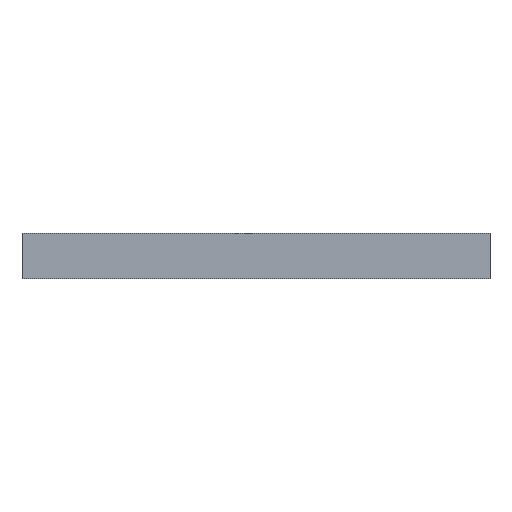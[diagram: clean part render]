
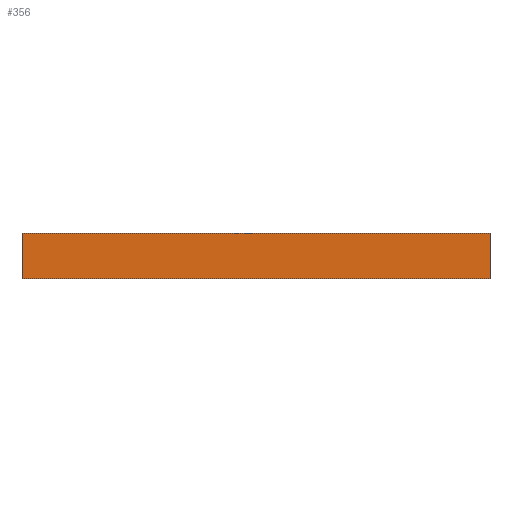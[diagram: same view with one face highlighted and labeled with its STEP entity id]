
A CAD part, top view. The second image highlights one B-rep face of the part: STEP entity #356.
In plain terms, the highlighted planar face has unit normal (0, 0, 1).
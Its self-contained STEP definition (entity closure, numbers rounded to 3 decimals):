
#42 = VERTEX_POINT('',#43);
#43 = CARTESIAN_POINT('',(0.,0.,0.6));
#50 = PLANE('',#51);
#51 = AXIS2_PLACEMENT_3D('',#52,#53,#54);
#52 = CARTESIAN_POINT('',(0.,0.,0.));
#53 = DIRECTION('',(1.,0.,-0.));
#54 = DIRECTION('',(0.,0.,1.));
#62 = PLANE('',#63);
#63 = AXIS2_PLACEMENT_3D('',#64,#65,#66);
#64 = CARTESIAN_POINT('',(0.,0.,0.));
#65 = DIRECTION('',(-0.,1.,0.));
#66 = DIRECTION('',(0.,0.,1.));
#103 = VERTEX_POINT('',#104);
#104 = CARTESIAN_POINT('',(0.,12.3,0.6));
#118 = PLANE('',#119);
#119 = AXIS2_PLACEMENT_3D('',#120,#121,#122);
#120 = CARTESIAN_POINT('',(0.,12.3,0.));
#121 = DIRECTION('',(-0.,1.,0.));
#122 = DIRECTION('',(0.,0.,1.));
#130 = EDGE_CURVE('',#42,#103,#131,.T.);
#131 = SURFACE_CURVE('',#132,(#136,#143),.PCURVE_S1.);
#132 = LINE('',#133,#134);
#133 = CARTESIAN_POINT('',(0.,0.,0.6));
#134 = VECTOR('',#135,1.);
#135 = DIRECTION('',(-0.,1.,0.));
#136 = PCURVE('',#50,#137);
#137 = DEFINITIONAL_REPRESENTATION('',(#138),#142);
#138 = LINE('',#139,#140);
#139 = CARTESIAN_POINT('',(0.6,0.));
#140 = VECTOR('',#141,1.);
#141 = DIRECTION('',(0.,-1.));
#142 = ( GEOMETRIC_REPRESENTATION_CONTEXT(2) 
PARAMETRIC_REPRESENTATION_CONTEXT() REPRESENTATION_CONTEXT('2D SPACE',''
  ) );
#143 = PCURVE('',#144,#149);
#144 = PLANE('',#145);
#145 = AXIS2_PLACEMENT_3D('',#146,#147,#148);
#146 = CARTESIAN_POINT('',(0.,0.,0.6));
#147 = DIRECTION('',(0.,0.,1.));
#148 = DIRECTION('',(1.,0.,-0.));
#149 = DEFINITIONAL_REPRESENTATION('',(#150),#154);
#150 = LINE('',#151,#152);
#151 = CARTESIAN_POINT('',(0.,0.));
#152 = VECTOR('',#153,1.);
#153 = DIRECTION('',(0.,1.));
#154 = ( GEOMETRIC_REPRESENTATION_CONTEXT(2) 
PARAMETRIC_REPRESENTATION_CONTEXT() REPRESENTATION_CONTEXT('2D SPACE',''
  ) );
#162 = VERTEX_POINT('',#163);
#163 = CARTESIAN_POINT('',(125.85,0.,0.6));
#170 = PLANE('',#171);
#171 = AXIS2_PLACEMENT_3D('',#172,#173,#174);
#172 = CARTESIAN_POINT('',(125.85,0.,0.));
#173 = DIRECTION('',(1.,0.,-0.));
#174 = DIRECTION('',(0.,0.,1.));
#213 = VERTEX_POINT('',#214);
#214 = CARTESIAN_POINT('',(125.85,12.3,0.6));
#235 = EDGE_CURVE('',#162,#213,#236,.T.);
#236 = SURFACE_CURVE('',#237,(#241,#248),.PCURVE_S1.);
#237 = LINE('',#238,#239);
#238 = CARTESIAN_POINT('',(125.85,0.,0.6));
#239 = VECTOR('',#240,1.);
#240 = DIRECTION('',(-0.,1.,0.));
#241 = PCURVE('',#170,#242);
#242 = DEFINITIONAL_REPRESENTATION('',(#243),#247);
#243 = LINE('',#244,#245);
#244 = CARTESIAN_POINT('',(0.6,0.));
#245 = VECTOR('',#246,1.);
#246 = DIRECTION('',(0.,-1.));
#247 = ( GEOMETRIC_REPRESENTATION_CONTEXT(2) 
PARAMETRIC_REPRESENTATION_CONTEXT() REPRESENTATION_CONTEXT('2D SPACE',''
  ) );
#248 = PCURVE('',#144,#249);
#249 = DEFINITIONAL_REPRESENTATION('',(#250),#254);
#250 = LINE('',#251,#252);
#251 = CARTESIAN_POINT('',(125.85,0.));
#252 = VECTOR('',#253,1.);
#253 = DIRECTION('',(0.,1.));
#254 = ( GEOMETRIC_REPRESENTATION_CONTEXT(2) 
PARAMETRIC_REPRESENTATION_CONTEXT() REPRESENTATION_CONTEXT('2D SPACE',''
  ) );
#281 = EDGE_CURVE('',#42,#162,#282,.T.);
#282 = SURFACE_CURVE('',#283,(#287,#294),.PCURVE_S1.);
#283 = LINE('',#284,#285);
#284 = CARTESIAN_POINT('',(0.,0.,0.6));
#285 = VECTOR('',#286,1.);
#286 = DIRECTION('',(1.,0.,-0.));
#287 = PCURVE('',#62,#288);
#288 = DEFINITIONAL_REPRESENTATION('',(#289),#293);
#289 = LINE('',#290,#291);
#290 = CARTESIAN_POINT('',(0.6,0.));
#291 = VECTOR('',#292,1.);
#292 = DIRECTION('',(0.,1.));
#293 = ( GEOMETRIC_REPRESENTATION_CONTEXT(2) 
PARAMETRIC_REPRESENTATION_CONTEXT() REPRESENTATION_CONTEXT('2D SPACE',''
  ) );
#294 = PCURVE('',#144,#295);
#295 = DEFINITIONAL_REPRESENTATION('',(#296),#300);
#296 = LINE('',#297,#298);
#297 = CARTESIAN_POINT('',(0.,0.));
#298 = VECTOR('',#299,1.);
#299 = DIRECTION('',(1.,0.));
#300 = ( GEOMETRIC_REPRESENTATION_CONTEXT(2) 
PARAMETRIC_REPRESENTATION_CONTEXT() REPRESENTATION_CONTEXT('2D SPACE',''
  ) );
#328 = EDGE_CURVE('',#103,#213,#329,.T.);
#329 = SURFACE_CURVE('',#330,(#334,#341),.PCURVE_S1.);
#330 = LINE('',#331,#332);
#331 = CARTESIAN_POINT('',(0.,12.3,0.6));
#332 = VECTOR('',#333,1.);
#333 = DIRECTION('',(1.,0.,-0.));
#334 = PCURVE('',#118,#335);
#335 = DEFINITIONAL_REPRESENTATION('',(#336),#340);
#336 = LINE('',#337,#338);
#337 = CARTESIAN_POINT('',(0.6,0.));
#338 = VECTOR('',#339,1.);
#339 = DIRECTION('',(0.,1.));
#340 = ( GEOMETRIC_REPRESENTATION_CONTEXT(2) 
PARAMETRIC_REPRESENTATION_CONTEXT() REPRESENTATION_CONTEXT('2D SPACE',''
  ) );
#341 = PCURVE('',#144,#342);
#342 = DEFINITIONAL_REPRESENTATION('',(#343),#347);
#343 = LINE('',#344,#345);
#344 = CARTESIAN_POINT('',(0.,12.3));
#345 = VECTOR('',#346,1.);
#346 = DIRECTION('',(1.,0.));
#347 = ( GEOMETRIC_REPRESENTATION_CONTEXT(2) 
PARAMETRIC_REPRESENTATION_CONTEXT() REPRESENTATION_CONTEXT('2D SPACE',''
  ) );
#356 = ADVANCED_FACE('',(#357),#144,.T.);
#357 = FACE_BOUND('',#358,.T.);
#358 = EDGE_LOOP('',(#359,#360,#361,#362));
#359 = ORIENTED_EDGE('',*,*,#130,.F.);
#360 = ORIENTED_EDGE('',*,*,#281,.T.);
#361 = ORIENTED_EDGE('',*,*,#235,.T.);
#362 = ORIENTED_EDGE('',*,*,#328,.F.);
